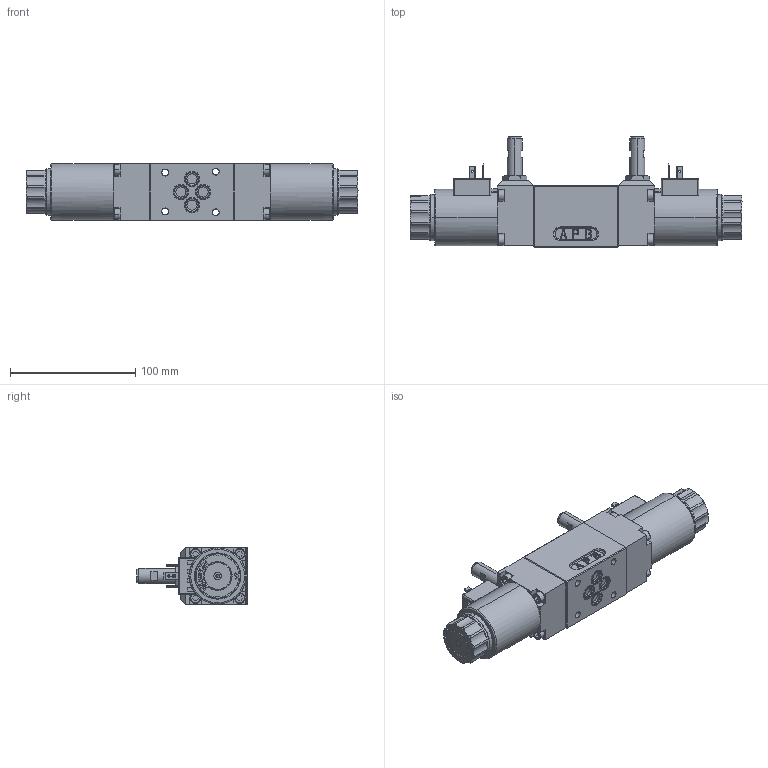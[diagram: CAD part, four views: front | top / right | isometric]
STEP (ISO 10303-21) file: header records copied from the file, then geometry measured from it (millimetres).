
FILE_DESCRIPTION (( 'STEP AP214' ), '1' );
FILE_NAME ('WDMFA06-4_2-Z72_482,Z72_603,Z72_680.STEP', '2019-08-12T13:46:33', ( '' ), ( '' ), 'SwSTEP 2.0', 'SolidWorks 2018', '' );
FILE_SCHEMA (( 'AUTOMOTIVE_DESIGN' ));
Length unit declared in the file: millimetre
Products named in the file (1): WDMFA06-4_2-Z72_482,Z72_603,Z72_680
Bounding box: 265.4 x 88 x 46 mm (x, y, z)
Volume: 492828.7 mm3; surface area: 71212.5 mm2
Topology: 13 solids, 15 shells, 2096 faces, 5596 edges, 3624 vertices
Faces by surface type: plane 1076, cylinder 722, cone 126, bspline 110, torus 40, sphere 22
Entity records: 91597 total; most frequent: CARTESIAN_POINT 17379, ORIENTED_EDGE 11138, DIRECTION 10731, EDGE_CURVE 5569, AXIS2_PLACEMENT_3D 3755, VERTEX_POINT 3624, LINE 3221, VECTOR 3221
